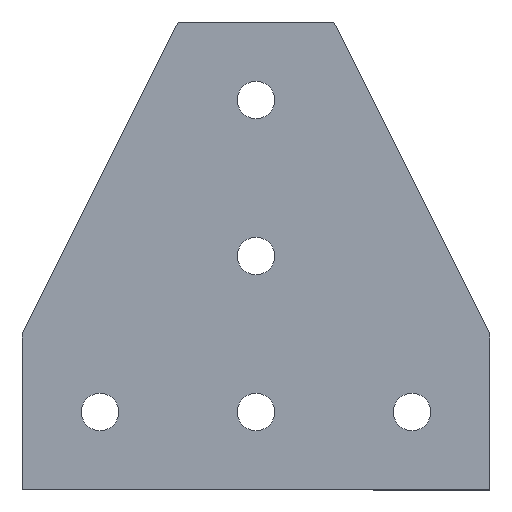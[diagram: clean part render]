
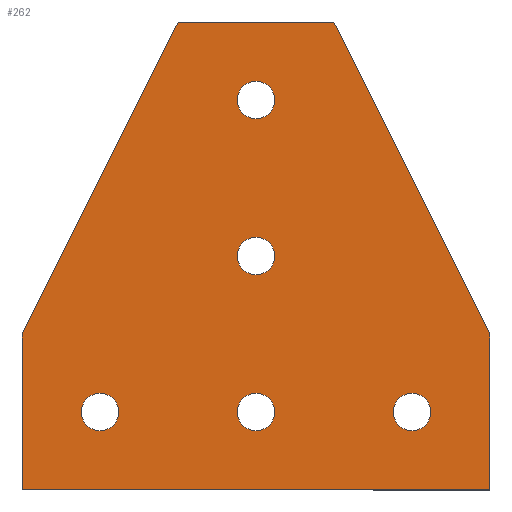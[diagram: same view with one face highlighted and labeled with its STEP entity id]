
A CAD part, top view. The second image highlights one B-rep face of the part: STEP entity #262.
In plain terms, the highlighted planar face has unit normal (0, 0, 1).
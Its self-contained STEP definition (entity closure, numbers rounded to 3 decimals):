
#15=FACE_BOUND('',#58,.T.);
#16=FACE_BOUND('',#59,.T.);
#17=FACE_BOUND('',#60,.T.);
#18=FACE_BOUND('',#61,.T.);
#19=FACE_BOUND('',#62,.T.);
#31=PLANE('',#299);
#44=FACE_OUTER_BOUND('',#57,.T.);
#57=EDGE_LOOP('',(#224,#225,#226,#227,#228,#229));
#58=EDGE_LOOP('',(#230));
#59=EDGE_LOOP('',(#231));
#60=EDGE_LOOP('',(#232));
#61=EDGE_LOOP('',(#233));
#62=EDGE_LOOP('',(#234));
#76=LINE('',#410,#99);
#79=LINE('',#416,#102);
#82=LINE('',#422,#105);
#85=LINE('',#428,#108);
#88=LINE('',#434,#111);
#91=LINE('',#438,#114);
#99=VECTOR('',#342,10.);
#102=VECTOR('',#347,10.);
#105=VECTOR('',#352,10.);
#108=VECTOR('',#357,10.);
#111=VECTOR('',#362,10.);
#114=VECTOR('',#367,10.);
#115=CIRCLE('',#279,3.6);
#117=CIRCLE('',#282,3.6);
#119=CIRCLE('',#285,3.6);
#121=CIRCLE('',#288,3.6);
#123=CIRCLE('',#291,3.6);
#125=VERTEX_POINT('',#374);
#127=VERTEX_POINT('',#380);
#129=VERTEX_POINT('',#386);
#131=VERTEX_POINT('',#392);
#133=VERTEX_POINT('',#398);
#137=VERTEX_POINT('',#407);
#138=VERTEX_POINT('',#409);
#140=VERTEX_POINT('',#415);
#142=VERTEX_POINT('',#421);
#144=VERTEX_POINT('',#427);
#146=VERTEX_POINT('',#433);
#147=EDGE_CURVE('',#125,#125,#115,.T.);
#150=EDGE_CURVE('',#127,#127,#117,.T.);
#153=EDGE_CURVE('',#129,#129,#119,.T.);
#156=EDGE_CURVE('',#131,#131,#121,.T.);
#159=EDGE_CURVE('',#133,#133,#123,.T.);
#164=EDGE_CURVE('',#138,#137,#76,.T.);
#167=EDGE_CURVE('',#140,#138,#79,.T.);
#170=EDGE_CURVE('',#142,#140,#82,.T.);
#173=EDGE_CURVE('',#144,#142,#85,.T.);
#176=EDGE_CURVE('',#146,#144,#88,.T.);
#179=EDGE_CURVE('',#137,#146,#91,.T.);
#224=ORIENTED_EDGE('',*,*,#179,.T.);
#225=ORIENTED_EDGE('',*,*,#176,.T.);
#226=ORIENTED_EDGE('',*,*,#173,.T.);
#227=ORIENTED_EDGE('',*,*,#170,.T.);
#228=ORIENTED_EDGE('',*,*,#167,.T.);
#229=ORIENTED_EDGE('',*,*,#164,.T.);
#230=ORIENTED_EDGE('',*,*,#159,.T.);
#231=ORIENTED_EDGE('',*,*,#156,.T.);
#232=ORIENTED_EDGE('',*,*,#153,.T.);
#233=ORIENTED_EDGE('',*,*,#150,.T.);
#234=ORIENTED_EDGE('',*,*,#147,.T.);
#262=ADVANCED_FACE('',(#44,#15,#16,#17,#18,#19),#31,.T.);
#279=AXIS2_PLACEMENT_3D('',#375,#305,#306);
#282=AXIS2_PLACEMENT_3D('',#381,#312,#313);
#285=AXIS2_PLACEMENT_3D('',#387,#319,#320);
#288=AXIS2_PLACEMENT_3D('',#393,#326,#327);
#291=AXIS2_PLACEMENT_3D('',#399,#333,#334);
#299=AXIS2_PLACEMENT_3D('',#439,#368,#369);
#305=DIRECTION('center_axis',(0.,0.,-1.));
#306=DIRECTION('ref_axis',(1.,0.,0.));
#312=DIRECTION('center_axis',(0.,0.,-1.));
#313=DIRECTION('ref_axis',(1.,0.,0.));
#319=DIRECTION('center_axis',(0.,0.,-1.));
#320=DIRECTION('ref_axis',(1.,0.,0.));
#326=DIRECTION('center_axis',(0.,0.,-1.));
#327=DIRECTION('ref_axis',(1.,0.,0.));
#333=DIRECTION('center_axis',(0.,0.,-1.));
#334=DIRECTION('ref_axis',(1.,0.,0.));
#342=DIRECTION('',(-0.447,-0.894,0.));
#347=DIRECTION('',(-1.,0.,0.));
#352=DIRECTION('',(-0.447,0.894,0.));
#357=DIRECTION('',(0.,1.,0.));
#362=DIRECTION('',(1.,0.,0.));
#367=DIRECTION('',(0.,-1.,0.));
#368=DIRECTION('center_axis',(0.,0.,1.));
#369=DIRECTION('ref_axis',(1.,0.,0.));
#374=CARTESIAN_POINT('',(-33.6,15.,4.));
#375=CARTESIAN_POINT('Origin',(-30.,15.,4.));
#380=CARTESIAN_POINT('',(26.4,15.,4.));
#381=CARTESIAN_POINT('Origin',(30.,15.,4.));
#386=CARTESIAN_POINT('',(-3.6,45.,4.));
#387=CARTESIAN_POINT('Origin',(0.,45.,4.));
#392=CARTESIAN_POINT('',(-3.6,15.,4.));
#393=CARTESIAN_POINT('Origin',(0.,15.,4.));
#398=CARTESIAN_POINT('',(-3.6,75.,4.));
#399=CARTESIAN_POINT('Origin',(0.,75.,4.));
#407=CARTESIAN_POINT('',(-45.,30.,4.));
#409=CARTESIAN_POINT('',(-15.,90.,4.));
#410=CARTESIAN_POINT('',(-15.,90.,4.));
#415=CARTESIAN_POINT('',(15.,90.,4.));
#416=CARTESIAN_POINT('',(15.,90.,4.));
#421=CARTESIAN_POINT('',(45.,30.,4.));
#422=CARTESIAN_POINT('',(45.,30.,4.));
#427=CARTESIAN_POINT('',(45.,0.,4.));
#428=CARTESIAN_POINT('',(45.,0.,4.));
#433=CARTESIAN_POINT('',(-45.,0.,4.));
#434=CARTESIAN_POINT('',(-45.,0.,4.));
#438=CARTESIAN_POINT('',(-45.,30.,4.));
#439=CARTESIAN_POINT('Origin',(0.,45.,4.));
